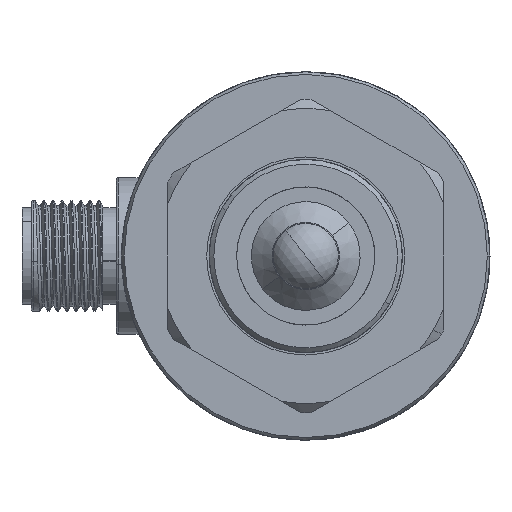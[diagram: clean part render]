
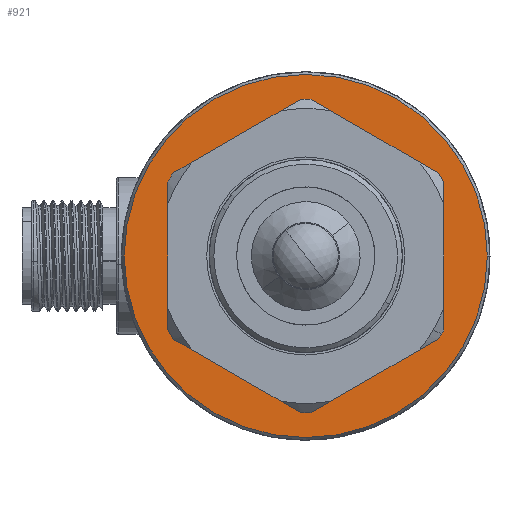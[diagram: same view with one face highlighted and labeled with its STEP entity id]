
A CAD part, left-side view. The second image highlights one B-rep face of the part: STEP entity #921.
In plain terms, the highlighted planar face has unit normal (-1, 0, 0).
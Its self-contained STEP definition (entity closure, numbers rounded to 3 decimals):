
#275 = EDGE_CURVE ( 'NONE', #24465, #17789, #62094, .T. ) ;
#921 = ADVANCED_FACE ( 'NONE', ( #25384, #10782 ), #31827, .F. ) ;
#3004 = EDGE_LOOP ( 'NONE', ( #41527, #61504 ) ) ;
#3656 = DIRECTION ( 'NONE',  ( 0., 0., 1. ) ) ;
#4806 = DIRECTION ( 'NONE',  ( 0., 0., 1. ) ) ;
#5810 = AXIS2_PLACEMENT_3D ( 'NONE', #20653, #62026, #26401 ) ;
#7014 = VERTEX_POINT ( 'NONE', #47159 ) ;
#7753 = ORIENTED_EDGE ( 'NONE', *, *, #48071, .T. ) ;
#10033 = CARTESIAN_POINT ( 'NONE',  ( 0., 0., 0. ) ) ;
#10782 = FACE_OUTER_BOUND ( 'NONE', #52519, .T. ) ;
#14900 = AXIS2_PLACEMENT_3D ( 'NONE', #60114, #18756, #4806 ) ;
#16054 = CIRCLE ( 'NONE', #53965, 19.711 ) ;
#17789 = VERTEX_POINT ( 'NONE', #61424 ) ;
#18607 = CARTESIAN_POINT ( 'NONE',  ( 0., 0., 0. ) ) ;
#18756 = DIRECTION ( 'NONE',  ( -1., 0., 0. ) ) ;
#20653 = CARTESIAN_POINT ( 'NONE',  ( 0., 19.711, 0. ) ) ;
#20948 = AXIS2_PLACEMENT_3D ( 'NONE', #10033, #40578, #66657 ) ;
#24465 = VERTEX_POINT ( 'NONE', #37911 ) ;
#25384 = FACE_BOUND ( 'NONE', #3004, .T. ) ;
#26401 = DIRECTION ( 'NONE',  ( 0., 0., -1. ) ) ;
#30935 = CARTESIAN_POINT ( 'NONE',  ( 0., 0., 0. ) ) ;
#31827 = PLANE ( 'NONE',  #5810 ) ;
#36512 = AXIS2_PLACEMENT_3D ( 'NONE', #18607, #44726, #3656 ) ;
#37911 = CARTESIAN_POINT ( 'NONE',  ( 0., 0., 14.289 ) ) ;
#39261 = CARTESIAN_POINT ( 'NONE',  ( 0., 0., -19.711 ) ) ;
#40578 = DIRECTION ( 'NONE',  ( -1., 0., 0. ) ) ;
#41485 = ORIENTED_EDGE ( 'NONE', *, *, #49129, .T. ) ;
#41527 = ORIENTED_EDGE ( 'NONE', *, *, #275, .F. ) ;
#44199 = EDGE_CURVE ( 'NONE', #17789, #24465, #65729, .T. ) ;
#44726 = DIRECTION ( 'NONE',  ( -1., 0., 0. ) ) ;
#47159 = CARTESIAN_POINT ( 'NONE',  ( 0., 0., 19.711 ) ) ;
#48071 = EDGE_CURVE ( 'NONE', #57623, #7014, #58232, .T. ) ;
#49129 = EDGE_CURVE ( 'NONE', #7014, #57623, #16054, .T. ) ;
#52519 = EDGE_LOOP ( 'NONE', ( #7753, #41485 ) ) ;
#53965 = AXIS2_PLACEMENT_3D ( 'NONE', #30935, #61038, #65453 ) ;
#57623 = VERTEX_POINT ( 'NONE', #39261 ) ;
#58232 = CIRCLE ( 'NONE', #14900, 19.711 ) ;
#60114 = CARTESIAN_POINT ( 'NONE',  ( 0., 0., 0. ) ) ;
#61038 = DIRECTION ( 'NONE',  ( -1., 0., 0. ) ) ;
#61424 = CARTESIAN_POINT ( 'NONE',  ( 0., 0., -14.289 ) ) ;
#61504 = ORIENTED_EDGE ( 'NONE', *, *, #44199, .F. ) ;
#62026 = DIRECTION ( 'NONE',  ( 1., 0., 0. ) ) ;
#62094 = CIRCLE ( 'NONE', #20948, 14.289 ) ;
#65453 = DIRECTION ( 'NONE',  ( 0., 0., 1. ) ) ;
#65729 = CIRCLE ( 'NONE', #36512, 14.289 ) ;
#66657 = DIRECTION ( 'NONE',  ( 0., 0., 1. ) ) ;
